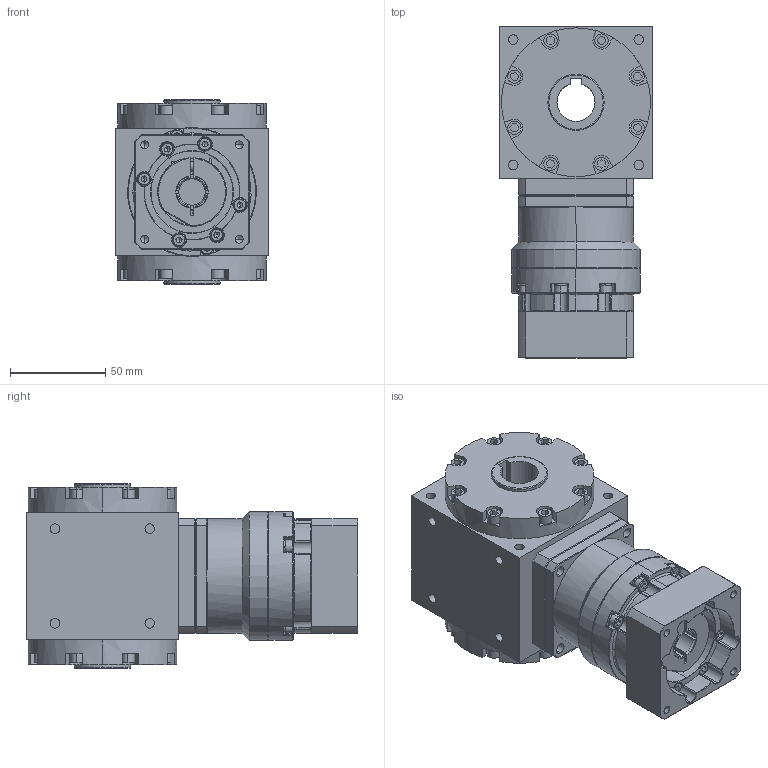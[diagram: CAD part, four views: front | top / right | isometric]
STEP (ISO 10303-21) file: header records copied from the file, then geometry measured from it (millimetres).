
FILE_DESCRIPTION (( 'STEP AP203' ), '1' );
FILE_NAME ('AAW080AS-L1-CR 14-50-70-M5.STEP', '2024-12-23T09:17:07', ( '' ), ( '' ), 'SwSTEP 2.0', 'SolidWorks 2021', '' );
FILE_SCHEMA (( 'CONFIG_CONTROL_DESIGN' ));
Length unit declared in the file: millimetre
Products named in the file (3): AAW080AS-L1-CR 14-50-70-M5; VRB-060-L1-S2-P1 14-50-70-M5
Assembly tree (2 placements, depth 2):
  AAW080AS-L1-CR 14-50-70-M5
    AAW080AS-L1-CR 14-50-70-M5
    VRB-060-L1-S2-P1 14-50-70-M5
Bounding box: 80 x 174 x 97 mm (x, y, z)
Volume: 783914.3 mm3; surface area: 124686.4 mm2
Topology: 33 solids, 33 shells, 1415 faces, 3493 edges, 2207 vertices
Faces by surface type: plane 625, cylinder 507, cone 213, bspline 66, torus 4
Entity records: 43374 total; most frequent: CARTESIAN_POINT 9442, DIRECTION 7299, ORIENTED_EDGE 6870, EDGE_CURVE 3435, AXIS2_PLACEMENT_3D 2793, VERTEX_POINT 2207, LINE 1713, VECTOR 1713
